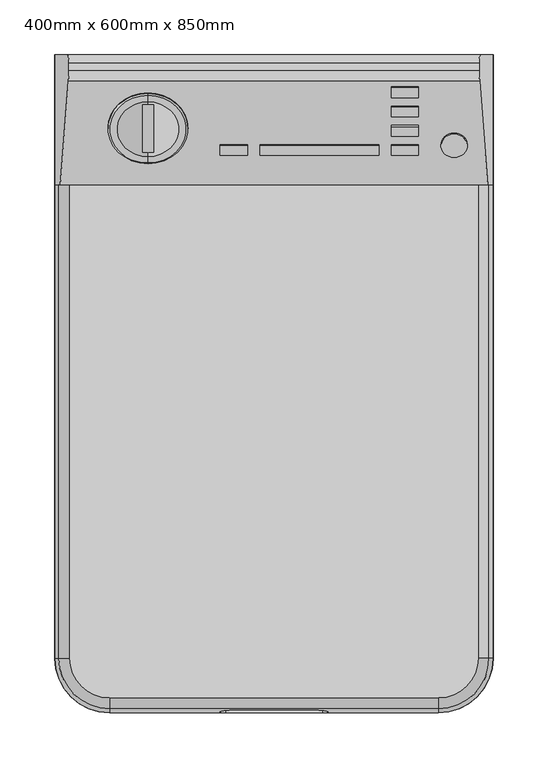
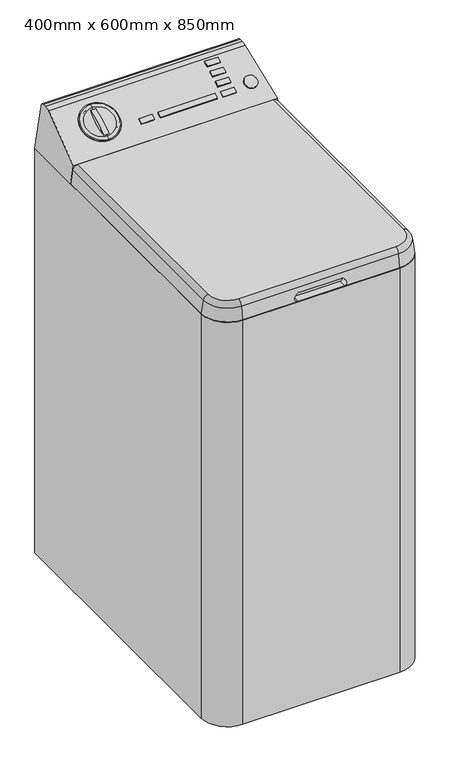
"""IFC4 building model written with IfcOpenShell, lengths in millimetres: proxy geometry, Lave linge - Chargement par le dessus : 400mm x 600mm x 850mm."""

from ifc_helpers import new_model, si_unit, point, frame, frame_2d, origin, origin_with_axes, place, context, project, spatial, polyline, circle_curve, ellipse_curve, trimmed, segment, composite_curve, outline, extrude, source, transform, mapped, element, save
from ifc_brep_helpers import plane_surface, cylinder_surface, revolved_surface, advanced_brep


def proxy_400mm_x_600mm_x_850mm_a42225af(model_context):
    return source(origin(), model_context, "Body", "SolidModel", [
        advanced_brep(
        [(149.8415169, 438.8202178, 896.6447426), (-226.8314138, 438.8202178, 896.6447426), (-225.7826037, 431.4785475, 903.9864129), (148.7927069, 431.4785475, 903.9864129), (-225.7826037, 424.7393453, 903.9864129), (148.7927069, 424.7393453, 903.9864129), (-226.13059, 415.1736495, 901.5505088), (149.1406932, 415.1736495, 901.5505088), (-233.4949484, 320.5189476, 850.0), (156.5050516, 320.5189476, 850.0), (-153.4949484, 398.6243026, 892.5374621), (-153.4949484, 345.9320149, 863.8403748), (-238.4949484, 320.5189476, 815.0), (161.5050516, 320.5189476, 815.0), (-238.4949484, 438.8202178, 815.0), (161.5050516, 438.8202178, 815.0), (-153.4949484, 408.1899984, 874.9733662), (-153.4949484, 355.4977107, 846.2762789)],
        [
            (0, 1),
            (1, 2, ellipse_curve(frame((-226.8314138, 431.4785475, 896.6447426), z_axis=(0.9899494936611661, 0.0, -0.1414213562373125), x_axis=(0.14142135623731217, 0.0, 0.9899494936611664)), 7.4162069, 7.3416703)),
            (2, 3),
            (3, 0, ellipse_curve(frame((149.8415169, 431.4785475, 896.6447426), z_axis=(-0.9899494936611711, 0.0, -0.14142135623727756), x_axis=(0.14142135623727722, 0.0, -0.9899494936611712)), 7.4162069, 7.3416703)),
            (2, 4),
            (4, 5),
            (5, 3),
            (4, 6, ellipse_curve(frame((-228.6397466, 424.7393453, 883.9864129), z_axis=(0.9899494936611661, 0.0, -0.1414213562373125), x_axis=(0.14142135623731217, 0.0, 0.9899494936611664)), 20.2030509, 20.0)),
            (6, 7),
            (7, 5, ellipse_curve(frame((151.6498497, 424.7393453, 883.9864129), z_axis=(-0.9899494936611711, 0.0, -0.14142135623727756), x_axis=(0.14142135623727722, 0.0, -0.9899494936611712)), 20.2030509, 20.0)),
            (6, 8),
            (8, 9),
            (9, 7),
            (10, 11, circle_curve(frame((-153.4949484, 372.2781588, 878.1889184), z_axis=(0.0, 0.4782847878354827, -0.8782047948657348), x_axis=(0.0, -0.8782047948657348, -0.4782847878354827)), 30.0)),
            (11, 10, circle_curve(frame((-153.4949484, 372.2781588, 878.1889184), z_axis=(0.0, 0.4782847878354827, -0.8782047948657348), x_axis=(0.0, -0.8782047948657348, -0.4782847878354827)), 30.0)),
            (12, 13),
            (13, 9),
            (8, 12),
            (12, 14),
            (14, 15),
            (15, 13),
            (14, 1),
            (0, 15),
            (16, 17, circle_curve(frame((-153.4949484, 381.8438545, 860.6248225), z_axis=(0.0, -0.4782847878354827, 0.8782047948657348), x_axis=(0.0, -0.8782047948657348, -0.4782847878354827)), 30.0)),
            (17, 16, circle_curve(frame((-153.4949484, 381.8438545, 860.6248225), z_axis=(0.0, -0.4782847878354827, 0.8782047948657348), x_axis=(0.0, -0.8782047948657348, -0.4782847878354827)), 30.0)),
            (17, 11),
            (10, 16),
        ],
        [
            cylinder_surface(frame((-238.4949484, 431.4785475, 896.6447426), z_axis=(1.0, 0.0, 0.0), x_axis=(0.0, 1.0, 0.0)), 7.3416703),
            plane_surface(frame((161.5050516, 431.4785475, 903.9864129), z_axis=(0.0, 0.0, 1.0), x_axis=(-1.0, 0.0, 0.0))),
            cylinder_surface(frame((-238.4949484, 424.7393453, 883.9864129), z_axis=(1.0, 0.0, 0.0), x_axis=(0.0, 1.0, 0.0)), 20.0),
            plane_surface(frame((161.5050516, 415.1736495, 901.5505088), z_axis=(0.0, -0.47828478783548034, 0.8782047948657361), x_axis=(-1.0, 0.0, 0.0))),
            plane_surface(frame((161.5050516, 320.5189476, 850.0), z_axis=(0.0, -1.0, 0.0), x_axis=(-1.0, 0.0, 0.0))),
            plane_surface(frame((161.5050516, 320.5189476, 815.0), z_axis=(0.0, 0.0, -1.0), x_axis=(-1.0, 0.0, 0.0))),
            plane_surface(frame((161.5050516, 438.8202178, 815.0), z_axis=(0.0, 1.0, 0.0), x_axis=(-1.0, 0.0, 0.0))),
            plane_surface(frame((-222.7806627, 438.8202178, 925.0), z_axis=(-0.9899494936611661, 0.0, 0.1414213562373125), x_axis=(0.0, -1.0, 0.0))),
            plane_surface(frame((161.5050516, 438.8202178, 815.0), z_axis=(0.9899494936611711, 0.0, 0.14142135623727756), x_axis=(0.0, -1.0, 0.0))),
            plane_surface(frame((-153.4949484, 355.4977107, 846.2762789), z_axis=(0.0, -0.4782847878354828, 0.8782047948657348), x_axis=(-1.0, 0.0, 0.0))),
            revolved_surface(polyline([(-153.4949484, 355.49771069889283, 846.2762788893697), (-153.4949484, 345.9320149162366, 863.8403748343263)]), (-153.4949484, 372.2781588, 878.1889184), (0.0, 0.4782847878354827, -0.8782047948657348)),
        ],
        [
            (0, [[1, 2, 3, 4]]),
            (1, [[-3, 5, 6, 7]]),
            (2, [[-6, 8, 9, 10]]),
            (3, [[-9, 11, 12, 13], [14, 15]]),
            (4, [[16, 17, -12, 18]]),
            (5, [[-16, 19, 20, 21]]),
            (6, [[-20, 22, -1, 23]]),
            (7, [[-2, -22, -19, -18, -11, -8, -5]]),
            (8, [[-4, -7, -10, -13, -17, -21, -23]]),
            (9, [[24, 25]]),
            (10, [[-25, 26, -14, 27]]),
            (10, [[-24, -27, -15, -26]]),
        ],
    ),
        extrude(outline(composite_curve([segment(polyline([(-238.4949484, 438.8202178), (161.5050516, 438.8202178), (161.5050516, -111.1797822)]), True, "CONTINUOUS"), segment(trimmed(circle_curve(frame_2d((111.5050516, -111.1797822)), 50.0), [point((161.5050516, -111.1797822))], [point((111.5050516, -161.1797822))], False, "CARTESIAN"), True, "CONTINUOUS"), segment(polyline([(111.5050516, -161.1797822), (-188.4949484, -161.1797822)]), True, "CONTINUOUS"), segment(trimmed(circle_curve(frame_2d((-188.4949484, -111.1797822)), 50.0), [point((-188.4949484, -161.1797822))], [point((-238.4949484, -111.1797822))], False, "CARTESIAN"), True, "CONTINUOUS"), segment(polyline([(-238.4949484, -111.1797822), (-238.4949484, 438.8202178)]), True, "CONTINUOUS")], self_intersect=False)), origin_with_axes(), (0.0, 0.0, 1.0), 815.0),
        advanced_brep(
        [(159.4603789, 320.5189476, 815.0), (159.4603789, -111.1797822, 815.0), (111.5050516, -159.1351096, 815.0), (-188.4949484, -159.1351096, 815.0), (-236.4502758, -111.1797822, 815.0), (-236.4502758, 320.5189476, 815.0), (-224.8219944, 320.5189476, 850.0), (-224.8219944, -111.1797822, 850.0), (-188.4949484, -147.5068282, 850.0), (111.5050516, -147.5068282, 850.0), (147.8320976, -111.1797822, 850.0), (147.8320976, 320.5189476, 850.0), (-236.4502758, 320.5189476, 816.0), (-238.3520913, 320.5189476, 816.0), (-234.7214893, 320.5189476, 841.4142136), (157.7315925, 320.5189476, 841.4142136), (161.3621944, 320.5189476, 816.0), (159.4603789, 320.5189476, 816.0), (-236.4502758, -111.1797822, 816.0), (-188.4949484, -159.1351096, 816.0), (111.5050516, -159.1351096, 816.0), (159.4603789, -111.1797822, 816.0), (161.3621944, -111.1797822, 816.0), (111.5050516, -161.036925, 816.0), (-188.4949484, -161.036925, 816.0), (-238.3520913, -111.1797822, 816.0), (-234.7214893, -111.1797822, 841.4142136), (-188.4949484, -157.4063231, 841.4142136), (111.5050516, -157.4063231, 841.4142136), (-77.3820506, -158.8226393, 831.5), (0.3921537, -158.8226393, 831.5), (9.4552316, -159.6474704, 825.7261826), (10.4405823, -159.9493406, 823.6130913), (5.9090433, -160.9654965, 816.5), (-82.8989402, -160.9654965, 816.5), (-87.4304791, -159.9493406, 823.6130913), (-86.4451284, -159.6474704, 825.7261826), (157.7315925, -111.1797822, 841.4142136), (0.3921537, -146.1797822, 831.5), (-77.3820506, -146.1797822, 831.5), (-86.4451284, -146.1797822, 825.7261826), (-87.4304791, -146.1797822, 823.6130913), (-82.8989402, -146.1797822, 816.5), (5.9090433, -146.1797822, 816.5), (10.4405823, -146.1797822, 823.6130913), (9.4552316, -146.1797822, 825.7261826)],
        [
            (0, 1),
            (1, 2, circle_curve(frame((111.5050516, -111.1797822, 815.0), z_axis=(0.0, 0.0, -1.0), x_axis=(0.0, -1.0, 0.0)), 47.9553274)),
            (2, 3),
            (3, 4, circle_curve(frame((-188.4949484, -111.1797822, 815.0), z_axis=(0.0, 0.0, -1.0), x_axis=(-1.0, 0.0, 0.0)), 47.9553274)),
            (4, 5),
            (5, 0),
            (6, 7),
            (7, 8, circle_curve(frame((-188.4949484, -111.1797822, 850.0), z_axis=(0.0, 0.0, 1.0), x_axis=(-1.0, 0.0, 0.0)), 36.327046)),
            (8, 9),
            (9, 10, circle_curve(frame((111.5050516, -111.1797822, 850.0), z_axis=(0.0, 0.0, 1.0), x_axis=(0.0, -1.0, 0.0)), 36.327046)),
            (10, 11),
            (11, 6),
            (5, 12),
            (12, 13),
            (13, 14),
            (14, 6, circle_curve(frame((-224.8219944, 320.5189476, 840.0), z_axis=(0.0, 1.0, 0.0), x_axis=(1.0, 0.0, 0.0)), 10.0)),
            (11, 15, circle_curve(frame((147.8320976, 320.5189476, 840.0), z_axis=(0.0, 1.0, 0.0), x_axis=(-1.0, 0.0, 0.0)), 10.0)),
            (15, 16),
            (16, 17),
            (17, 0),
            (4, 18),
            (18, 12),
            (18, 19, circle_curve(frame((-188.4949484, -111.1797822, 816.0), z_axis=(0.0, 0.0, 1.0), x_axis=(-1.0, 0.0, 0.0)), 47.9553274)),
            (19, 20),
            (20, 21, circle_curve(frame((111.5050516, -111.1797822, 816.0), z_axis=(0.0, 0.0, 1.0), x_axis=(0.0, -1.0, 0.0)), 47.9553274)),
            (21, 17),
            (16, 22),
            (22, 23, circle_curve(frame((111.5050516, -111.1797822, 816.0), z_axis=(0.0, 0.0, -1.0), x_axis=(0.0, -1.0, 0.0)), 49.8571429)),
            (23, 24),
            (24, 25, circle_curve(frame((-188.4949484, -111.1797822, 816.0), z_axis=(0.0, 0.0, -1.0), x_axis=(-1.0, 0.0, 0.0)), 49.8571429)),
            (25, 13),
            (25, 26),
            (26, 14),
            (26, 7, circle_curve(frame((-224.8219944, -111.1797822, 840.0), z_axis=(0.0, 1.0, 0.0), x_axis=(1.0, 0.0, 0.0)), 10.0)),
            (3, 19),
            (24, 27),
            (27, 26, circle_curve(frame((-188.4949484, -111.1797822, 841.4142136), z_axis=(0.0, 0.0, -1.0), x_axis=(-1.0, 0.0, 0.0)), 46.2265409)),
            (27, 8, circle_curve(frame((-188.4949484, -147.5068282, 840.0), z_axis=(-1.0, 0.0, 0.0), x_axis=(0.0, 1.0, 0.0)), 10.0)),
            (2, 20),
            (23, 28),
            (28, 27),
            (29, 30),
            (30, 31, ellipse_curve(frame((0.3921537, -160.2512108, 821.5), z_axis=(0.0, 0.989949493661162, -0.1414213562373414), x_axis=(0.0, -0.14142135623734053, -0.989949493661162)), 10.1015254, 10.0)),
            (31, 32),
            (32, 33, ellipse_curve(frame((5.9090433, -160.2512108, 821.5), z_axis=(0.0, 0.989949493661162, -0.1414213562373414), x_axis=(0.0, -0.14142135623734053, -0.989949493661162)), 5.0507627, 5.0)),
            (33, 34),
            (34, 35, ellipse_curve(frame((-82.8989402, -160.2512108, 821.5), z_axis=(0.0, 0.989949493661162, -0.1414213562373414), x_axis=(0.0, -0.14142135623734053, -0.989949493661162)), 5.0507627, 5.0)),
            (35, 36),
            (36, 29, ellipse_curve(frame((-77.3820506, -160.2512108, 821.5), z_axis=(0.0, 0.989949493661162, -0.1414213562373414), x_axis=(0.0, -0.14142135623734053, -0.989949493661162)), 10.1015254, 10.0)),
            (28, 9, circle_curve(frame((111.5050516, -147.5068282, 840.0), z_axis=(-1.0, 0.0, 0.0), x_axis=(0.0, 1.0, 0.0)), 10.0)),
            (1, 21),
            (22, 37),
            (37, 28, circle_curve(frame((111.5050516, -111.1797822, 841.4142136), z_axis=(0.0, 0.0, -1.0), x_axis=(0.0, -1.0, 0.0)), 46.2265409)),
            (37, 10, circle_curve(frame((147.8320976, -111.1797822, 840.0), z_axis=(0.0, -1.0, 0.0), x_axis=(-1.0, 0.0, 0.0)), 10.0)),
            (15, 37),
            (38, 39),
            (39, 40, circle_curve(frame((-77.3820506, -146.1797822, 821.5), z_axis=(0.0, -1.0, 0.0), x_axis=(1.0, 0.0, 0.0)), 10.0)),
            (40, 41),
            (41, 42, circle_curve(frame((-82.8989402, -146.1797822, 821.5), z_axis=(0.0, -1.0, 0.0), x_axis=(1.0, 0.0, 0.0)), 5.0)),
            (42, 43),
            (43, 44, circle_curve(frame((5.9090433, -146.1797822, 821.5), z_axis=(0.0, -1.0, 0.0), x_axis=(1.0, 0.0, 0.0)), 5.0)),
            (44, 45),
            (45, 38, circle_curve(frame((0.3921537, -146.1797822, 821.5), z_axis=(0.0, -1.0, 0.0), x_axis=(1.0, 0.0, 0.0)), 10.0)),
            (38, 30),
            (29, 39),
            (36, 40),
            (35, 41),
            (34, 42),
            (33, 43),
            (32, 44),
            (31, 45),
        ],
        [
            plane_surface(frame((141.5050516, 320.5189476, 815.0), z_axis=(0.0, 0.0, -1.0), x_axis=(1.0, 0.0, 0.0))),
            plane_surface(frame((141.5050516, 320.5189476, 850.0), z_axis=(0.0, 0.0, 1.0), x_axis=(-1.0, 0.0, 0.0))),
            plane_surface(frame((-218.4949484, 320.5189476, 815.0), z_axis=(0.0, 1.0, 0.0), x_axis=(0.0, 0.0, 1.0))),
            plane_surface(frame((-236.4502758, 320.5189476, 815.0), z_axis=(-1.0, 0.0, 0.0), x_axis=(0.0, -1.0, 0.0))),
            plane_surface(frame((-236.4502758, 320.5189476, 816.0), z_axis=(0.0, 0.0, -1.0), x_axis=(0.0, -1.0, 0.0))),
            plane_surface(frame((-238.3520913, 320.5189476, 816.0), z_axis=(-0.9899494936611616, 0.0, 0.1414213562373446), x_axis=(0.0, -1.0, 0.0))),
            cylinder_surface(frame((-224.8219944, 320.5189476, 840.0), z_axis=(0.0, 1.0, 0.0), x_axis=(1.0, 0.0, 0.0)), 10.0),
            cylinder_surface(frame((-188.4949484, -111.1797822, 850.0), z_axis=(0.0, 0.0, 1.0), x_axis=(-1.0, 0.0, 0.0)), 47.9553274),
            revolved_surface(polyline([(-238.3520913, -111.1797822, 816.0), (-234.7214893, -111.1797822, 841.4142136)]), (-188.4949484, -111.1797822, 850.0), (0.0, 0.0, 1.0)),
            revolved_surface(trimmed(ellipse_curve(frame((-224.8219944, -111.1797822, 840.0), z_axis=(0.0, 1.0, 0.0), x_axis=(1.0, 0.0, 0.0)), 10.0, 10.0), [point((-234.7214893, -111.1797822, 841.4142136))], [point((-224.8219944, -111.1797822, 850.0))], True, "CARTESIAN"), (-188.4949484, -111.1797822, 850.0), (0.0, 0.0, 1.0)),
            plane_surface(frame((-188.4949484, -159.1351096, 815.0), z_axis=(0.0, -1.0, 0.0), x_axis=(1.0, 0.0, 0.0))),
            plane_surface(frame((-188.4949484, -161.036925, 816.0), z_axis=(0.0, -0.989949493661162, 0.1414213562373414), x_axis=(1.0, 0.0, 0.0))),
            cylinder_surface(frame((-188.4949484, -147.5068282, 840.0), z_axis=(-1.0, 0.0, 0.0), x_axis=(0.0, 1.0, 0.0)), 10.0),
            cylinder_surface(frame((111.5050516, -111.1797822, 850.0), z_axis=(0.0, 0.0, 1.0), x_axis=(0.0, -1.0, 0.0)), 47.9553274),
            revolved_surface(polyline([(111.5050516, -161.036925, 816.0), (111.5050516, -157.4063231, 841.4142136)]), (111.5050516, -111.1797822, 850.0), (0.0, 0.0, 1.0)),
            revolved_surface(trimmed(ellipse_curve(frame((111.5050516, -147.5068282, 840.0), z_axis=(-1.0, 0.0, 0.0), x_axis=(0.0, 1.0, 0.0)), 10.0, 10.0), [point((111.5050516, -157.4063231, 841.4142136))], [point((111.5050516, -147.5068282, 850.0))], True, "CARTESIAN"), (111.5050516, -111.1797822, 850.0), (0.0, 0.0, 1.0)),
            plane_surface(frame((159.4603789, -111.1797822, 815.0), z_axis=(1.0, 0.0, 0.0), x_axis=(0.0, 1.0, 0.0))),
            plane_surface(frame((161.3621944, -111.1797822, 816.0), z_axis=(0.9899494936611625, 0.0, 0.1414213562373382), x_axis=(0.0, 1.0, 0.0))),
            cylinder_surface(frame((147.8320976, -111.1797822, 840.0), z_axis=(0.0, -1.0, 0.0), x_axis=(-1.0, 0.0, 0.0)), 10.0),
            plane_surface(frame((-77.3820506, -146.1797822, 831.5), z_axis=(0.0, -1.0, 0.0), x_axis=(1.0, 0.0, 0.0))),
            plane_surface(frame((0.3921537, -161.1797822, 831.5), z_axis=(0.0, 0.0, -1.0), x_axis=(0.0, 1.0, 0.0))),
            revolved_surface(polyline([(-67.3820506, -161.67978222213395, 821.5), (-67.3820506, -146.1797822, 821.5)]), (-77.3820506, -146.1797822, 821.5), (0.0, -1.0, 0.0)),
            plane_surface(frame((-86.4451284, -161.1797822, 825.7261826), z_axis=(0.9063077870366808, 0.0, -0.42261826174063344), x_axis=(0.0, 1.0, 0.0))),
            revolved_surface(polyline([(-77.8989402, -160.96549651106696, 821.5), (-77.8989402, -146.1797822, 821.5)]), (-82.8989402, -146.1797822, 821.5), (0.0, -1.0, 0.0)),
            plane_surface(frame((-82.8989402, -161.1797822, 816.5), z_axis=(0.0, 0.0, 1.0), x_axis=(0.0, 1.0, 0.0))),
            revolved_surface(polyline([(10.9090433, -160.96549651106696, 821.5), (10.9090433, -146.1797822, 821.5)]), (5.9090433, -146.1797822, 821.5), (0.0, -1.0, 0.0)),
            plane_surface(frame((10.4405823, -161.1797822, 823.6130913), z_axis=(-0.9063077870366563, 0.0, -0.4226182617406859), x_axis=(0.0, 1.0, 0.0))),
            revolved_surface(polyline([(10.3921537, -161.67978222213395, 821.5), (10.3921537, -146.1797822, 821.5)]), (0.3921537, -146.1797822, 821.5), (0.0, -1.0, 0.0)),
        ],
        [
            (0, [[1, 2, 3, 4, 5, 6]]),
            (1, [[7, 8, 9, 10, 11, 12]]),
            (2, [[13, 14, 15, 16, -12, 17, 18, 19, 20, -6]]),
            (3, [[-13, -5, 21, 22]]),
            (4, [[-14, -22, 23, 24, 25, 26, -19, 27, 28, 29, 30, 31]]),
            (5, [[-15, -31, 32, 33]]),
            (6, [[-16, -33, 34, -7]]),
            (7, [[-4, 35, -23, -21]]),
            (8, [[-30, 36, 37, -32]]),
            (9, [[-8, -34, -37, 38]]),
            (10, [[-3, 39, -24, -35]]),
            (11, [[-29, 40, 41, -36], [42, 43, 44, 45, 46, 47, 48, 49]]),
            (12, [[-9, -38, -41, 50]]),
            (13, [[-2, 51, -25, -39]]),
            (14, [[-28, 52, 53, -40]]),
            (15, [[-10, -50, -53, 54]]),
            (16, [[-1, -20, -26, -51]]),
            (17, [[-27, -18, 55, -52]]),
            (18, [[-11, -54, -55, -17]]),
            (19, [[56, 57, 58, 59, 60, 61, 62, 63]]),
            (20, [[-56, 64, -42, 65]]),
            (21, [[-57, -65, -49, 66]]),
            (22, [[-58, -66, -48, 67]]),
            (23, [[-59, -67, -47, 68]]),
            (24, [[-60, -68, -46, 69]]),
            (25, [[-61, -69, -45, 70]]),
            (26, [[-62, -70, -44, 71]]),
            (27, [[-63, -71, -43, -64]]),
        ],
    ),
        extrude(outline(polyline([(10.0000001, 0.0), (10.0000001, -25.0), (0.0, -25.0), (0.0, 0.0), (10.0000001, 0.0)])), frame((-87.5043422, 348.5737915, 865.2791298), z_axis=(0.0, -0.4782847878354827, 0.8782047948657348), x_axis=(0.0, 0.8782047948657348, 0.4782847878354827)), (0.0, 0.0, 1.0), 3.0),
        extrude(outline(polyline([(10.0000001, -36.2177643), (10.0000001, -144.7399126), (0.0, -144.7399126), (0.0, -36.2177643), (10.0000001, -36.2177643)])), frame((-87.5043422, 348.5737915, 865.2791298), z_axis=(0.0, -0.4782847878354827, 0.8782047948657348), x_axis=(0.0, 0.8782047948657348, 0.4782847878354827)), (0.0, 0.0, 1.0), 3.0),
        extrude(outline(polyline([(10.0000001, -180.9576769), (0.0, -180.9576769), (0.0, -155.9576769), (10.0000001, -155.9576769), (10.0000001, -180.9576769)])), frame((-87.5043422, 348.5737915, 865.2791298), z_axis=(0.0, -0.4782847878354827, 0.8782047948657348), x_axis=(0.0, 0.8782047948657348, 0.4782847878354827)), (0.0, 0.0, 1.0), 3.0),
        extrude(outline(polyline([(30.0000001, -180.9576769), (20.0, -180.9576769), (20.0, -155.9576769), (30.0000001, -155.9576769), (30.0000001, -180.9576769)])), frame((-87.5043422, 348.5737915, 865.2791298), z_axis=(0.0, -0.4782847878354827, 0.8782047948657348), x_axis=(0.0, 0.8782047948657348, 0.4782847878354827)), (0.0, 0.0, 1.0), 3.0),
        extrude(outline(polyline([(50.0000001, -180.9576769), (40.0, -180.9576769), (40.0, -155.9576769), (50.0000001, -155.9576769), (50.0000001, -180.9576769)])), frame((-87.5043422, 348.5737915, 865.2791298), z_axis=(0.0, -0.4782847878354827, 0.8782047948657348), x_axis=(0.0, 0.8782047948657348, 0.4782847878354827)), (0.0, 0.0, 1.0), 3.0),
        extrude(outline(polyline([(70.0000001, -180.9576769), (60.0, -180.9576769), (60.0, -155.9576769), (70.0000001, -155.9576769), (70.0000001, -180.9576769)])), frame((-87.5043422, 348.5737915, 865.2791298), z_axis=(0.0, -0.4782847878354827, 0.8782047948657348), x_axis=(0.0, 0.8782047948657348, 0.4782847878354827)), (0.0, 0.0, 1.0), 3.0),
        extrude(outline(composite_curve([segment(trimmed(circle_curve(frame_2d((10.0000001, -213.4308231)), 12.0), [point((-1.9999999, -213.4308231))], [point((22.0, -213.4308231))], False, "CARTESIAN"), True, "CONTINUOUS"), segment(trimmed(circle_curve(frame_2d((10.0000001, -213.4308231)), 12.0), [point((22.0, -213.4308231))], [point((-1.9999999, -213.4308231))], False, "CARTESIAN"), True, "CONTINUOUS")], self_intersect=False)), frame((-87.5043422, 348.5737915, 865.2791298), z_axis=(0.0, -0.4782847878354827, 0.8782047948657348), x_axis=(0.0, 0.8782047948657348, 0.4782847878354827)), (0.0, 0.0, 1.0), 3.0),
        advanced_brep(
        [(-153.4949484, 398.6243026, 892.5374621), (-153.4949484, 345.9320149, 863.8403748), (-153.4949484, 376.1973022, 870.9927653), (-153.4949484, 404.3349522, 895.6475758), (-153.4949484, 340.2213654, 860.730261), (-153.4949484, 403.7171402, 896.781974), (-153.4949484, 339.6035534, 861.8646593), (-153.4949484, 401.8138079, 897.2162567), (-153.4949484, 340.2712618, 863.6991731), (-153.4949484, 396.0493671, 894.0768474), (-153.4949484, 346.0357026, 866.8385824), (-153.4949484, 374.7624479, 873.6273797)],
        [
            (0, 1, circle_curve(frame((-153.4949484, 372.2781588, 878.1889184), z_axis=(0.0, 0.47828478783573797, -0.8782047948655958), x_axis=(0.0, -0.8782047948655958, -0.47828478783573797)), 30.0)),
            (1, 2, circle_curve(frame((-153.4949484, 347.9716972, 922.8193387), z_axis=(1.0, 0.0, 0.0), x_axis=(0.0, -1.0, 0.0)), 59.0142228)),
            (2, 0, circle_curve(frame((-153.4949484, 347.9716972, 922.8193387), z_axis=(1.0, 0.0, 0.0), x_axis=(0.0, 0.5424873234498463, 0.8400639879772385)), 59.0142228)),
            (1, 0, circle_curve(frame((-153.4949484, 372.2781588, 878.1889184), z_axis=(0.0, 0.47828478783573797, -0.8782047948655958), x_axis=(0.0, -0.8782047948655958, -0.47828478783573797)), 30.0)),
            (0, 3),
            (3, 4, circle_curve(frame((-153.4949484, 372.2781588, 878.1889184), z_axis=(0.0, 0.47828478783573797, -0.8782047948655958), x_axis=(0.0, -0.8782047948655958, -0.47828478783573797)), 36.5026399)),
            (4, 1),
            (4, 3, circle_curve(frame((-153.4949484, 372.2781588, 878.1889184), z_axis=(0.0, 0.47828478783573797, -0.8782047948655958), x_axis=(0.0, -0.8782047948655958, -0.47828478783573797)), 36.5026399)),
            (3, 5),
            (5, 6, circle_curve(frame((-153.4949484, 371.6603468, 879.3233167), z_axis=(0.0, 0.47828478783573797, -0.8782047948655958), x_axis=(0.0, -0.8782047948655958, -0.47828478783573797)), 36.5026399)),
            (6, 4),
            (6, 5, circle_curve(frame((-153.4949484, 371.6603468, 879.3233167), z_axis=(0.0, 0.47828478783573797, -0.8782047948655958), x_axis=(0.0, -0.8782047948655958, -0.47828478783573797)), 36.5026399)),
            (5, 7),
            (7, 8, circle_curve(frame((-153.4949484, 371.0425349, 880.4577149), z_axis=(0.0, 0.47828478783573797, -0.8782047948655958), x_axis=(0.0, -0.8782047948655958, -0.47828478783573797)), 35.0388351)),
            (8, 6),
            (8, 7, circle_curve(frame((-153.4949484, 371.0425349, 880.4577149), z_axis=(0.0, 0.47828478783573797, -0.8782047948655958), x_axis=(0.0, -0.8782047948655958, -0.47828478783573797)), 35.0388351)),
            (7, 9),
            (9, 10, circle_curve(frame((-153.4949484, 371.0425349, 880.4577149), z_axis=(0.0, 0.47828478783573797, -0.8782047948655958), x_axis=(0.0, -0.8782047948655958, -0.47828478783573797)), 28.4749439)),
            (10, 8),
            (10, 9, circle_curve(frame((-153.4949484, 371.0425349, 880.4577149), z_axis=(0.0, 0.47828478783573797, -0.8782047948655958), x_axis=(0.0, -0.8782047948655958, -0.47828478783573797)), 28.4749439)),
            (9, 11, circle_curve(frame((-153.4949484, 347.9716972, 922.8193387), z_axis=(-1.0, 0.0, 0.0), x_axis=(0.0, 0.5424873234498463, 0.8400639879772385)), 56.0142228)),
            (11, 10, circle_curve(frame((-153.4949484, 347.9716972, 922.8193387), z_axis=(-1.0, 0.0, 0.0), x_axis=(0.0, -1.0, 0.0)), 56.0142228)),
        ],
        [
            revolved_surface(trimmed(ellipse_curve(frame((-153.4949484, 347.9716972, 922.8193387), z_axis=(-1.0, 0.0, 0.0), x_axis=(0.0, -1.0, 0.0)), 59.0142228, 59.0142228), [point((-153.4949484, 376.1973022, 870.9927653))], [point((-153.4949484, 345.9320149, 863.8403748))], True, "CARTESIAN"), (-153.4949484, 376.1973022, 870.9927653), (0.0, -0.47828478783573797, 0.8782047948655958)),
            plane_surface(frame((-153.4949484, 372.2781588, 878.1889184), z_axis=(0.0, 0.47828478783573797, -0.8782047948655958), x_axis=(0.0, -0.8782047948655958, -0.47828478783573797))),
            cylinder_surface(frame((-153.4949484, 376.1973022, 870.9927653), z_axis=(0.0, -0.47828478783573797, 0.8782047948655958), x_axis=(0.0, -0.8782047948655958, -0.47828478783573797)), 36.5026399),
            revolved_surface(polyline([(-153.4949484, 339.6035534, 861.8646593), (-153.4949484, 340.2712618, 863.6991731)]), (-153.4949484, 376.1973022, 870.9927653), (0.0, -0.47828478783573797, 0.8782047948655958)),
            plane_surface(frame((-153.4949484, 371.0425349, 880.4577149), z_axis=(0.0, -0.47828478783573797, 0.8782047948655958), x_axis=(0.0, -0.8782047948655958, -0.47828478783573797))),
            revolved_surface(trimmed(ellipse_curve(frame((-153.4949484, 347.9716972, 922.8193387), z_axis=(1.0, 0.0, 0.0), x_axis=(0.0, -1.0, 0.0)), 56.0142228, 56.0142228), [point((-153.4949484, 346.0357026, 866.8385824))], [point((-153.4949484, 374.7624479, 873.6273797))], True, "CARTESIAN"), (-153.4949484, 376.1973022, 870.9927653), (0.0, -0.47828478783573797, 0.8782047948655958)),
        ],
        [
            (0, [[1, 2, 3]]),
            (0, [[-2, 4, -3]]),
            (1, [[-1, 5, 6, 7]]),
            (1, [[-4, -7, 8, -5]]),
            (2, [[-6, 9, 10, 11]]),
            (2, [[-8, -11, 12, -9]]),
            (3, [[-10, 13, 14, 15]]),
            (3, [[-12, -15, 16, -13]]),
            (4, [[-14, 17, 18, 19]]),
            (4, [[-16, -19, 20, -17]]),
            (5, [[-18, 21, 22]]),
            (5, [[-20, -22, -21]]),
        ],
    ),
        advanced_brep(
        [(-158.4949484, 393.5085128, 891.4727313), (-158.4949484, 349.596219, 867.5573733), (-148.4949484, 393.5085128, 891.4727313), (-148.4949484, 349.596219, 867.5573733)],
        [
            (0, 1, circle_curve(frame((-158.4949484, 347.8534076, 923.0300026), z_axis=(-1.0, 0.0, 0.0), x_axis=(0.0, -1.0, 0.0)), 55.5)),
            (1, 0, circle_curve(frame((-158.4949484, 434.2061874, 764.4729522), z_axis=(-1.0, 0.0, 0.0), x_axis=(0.0, -1.0, 0.0)), 133.3613311)),
            (2, 3, circle_curve(frame((-148.4949484, 434.2061874, 764.4729522), z_axis=(1.0, 0.0, 0.0), x_axis=(0.0, -1.0, 0.0)), 133.3613311)),
            (3, 2, circle_curve(frame((-148.4949484, 347.8534076, 923.0300026), z_axis=(1.0, 0.0, 0.0), x_axis=(0.0, -1.0, 0.0)), 55.5)),
            (0, 2),
            (3, 1),
        ],
        [
            plane_surface(frame((-158.4949484, 292.3534076, 923.0300026), z_axis=(-1.0, 0.0, 0.0), x_axis=(0.0, 0.0, 1.0))),
            plane_surface(frame((-148.4949484, 292.3534076, 923.0300026), z_axis=(1.0, 0.0, 0.0), x_axis=(0.0, 0.0, -1.0))),
            cylinder_surface(frame((-148.4949484, 347.8534076, 923.0300026), z_axis=(-1.0, 0.0, 0.0), x_axis=(0.0, -1.0, 0.0)), 55.5),
            cylinder_surface(frame((-148.4949484, 434.2061874, 764.4729522), z_axis=(-1.0, 0.0, 0.0), x_axis=(0.0, -1.0, 0.0)), 133.3613311),
        ],
        [
            (0, [[1, 2]]),
            (1, [[3, 4]]),
            (2, [[-1, 5, -4, 6]]),
            (3, [[-2, -6, -3, -5]]),
        ],
    ),
    ])


if __name__ == "__main__":
    model = new_model("IFC4")
    model_context = context("Model", 3, world=origin())
    ifc_project = project(units=[si_unit("LENGTHUNIT", "METRE", prefix="MILLI")], contexts=[model_context])
    site = spatial("IfcSite", under=ifc_project)
    building = spatial("IfcBuilding", under=site)
    placement = place(None, origin())
    proxy_400mm_x_600mm_x_850mm_shape = proxy_400mm_x_600mm_x_850mm_a42225af(model_context)
    element("IfcBuildingElementProxy", 1, Name="Lave linge - Chargement par le dessus : 400mm x 600mm x 850mm", ObjectType="Lave linge - Chargement par le dessus : 400mm x 600mm x 850mm", at=placement, inside=building, context=model_context, shape_type="MappedRepresentation", body=[
        mapped(proxy_400mm_x_600mm_x_850mm_shape, transform((0.0, 0.0, 0.0), x_axis=(1.0, 0.0, 0.0), y_axis=(0.0, 1.0, 0.0), z_axis=(0.0, 0.0, 1.0))),
    ])
    save(model, "model.ifc")
